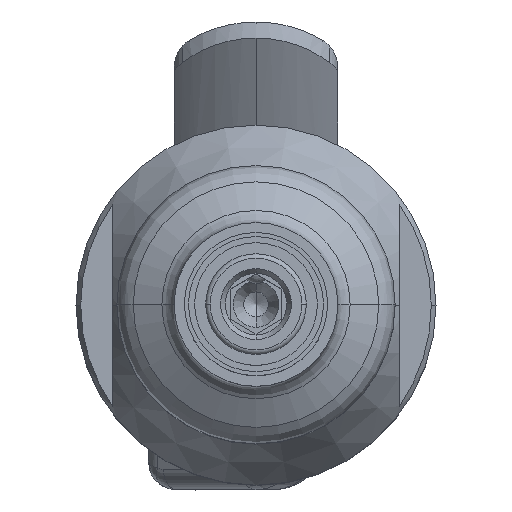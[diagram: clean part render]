
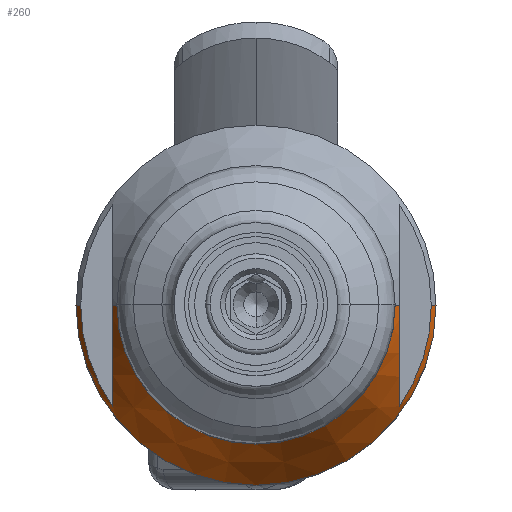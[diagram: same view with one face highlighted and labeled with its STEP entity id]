
A CAD part, top view. The second image highlights one B-rep face of the part: STEP entity #260.
In plain terms, the highlighted conical face has half-angle 30 degrees and reference radius 22 mm.
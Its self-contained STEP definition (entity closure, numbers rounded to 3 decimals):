
#254 = EDGE_LOOP ( 'NONE', ( #255, #258, #259, #295, #293, #281, #289, #291, #298, #288 ) ) ;
#255 = ORIENTED_EDGE ( 'NONE', *, *, #4612, .F. ) ;
#257 = EDGE_CURVE ( 'NONE', #4610, #4609, #5483, .T. ) ;
#258 = ORIENTED_EDGE ( 'NONE', *, *, #257, .F. ) ;
#259 = ORIENTED_EDGE ( 'NONE', *, *, #4355, .T. ) ;
#260 = ADVANCED_FACE ( 'NONE', ( #5479 ), #5478, .T. ) ;
#281 = ORIENTED_EDGE ( 'NONE', *, *, #4370, .T. ) ;
#283 = EDGE_CURVE ( 'NONE', #294, #4371, #5568, .T. ) ;
#284 = EDGE_CURVE ( 'NONE', #299, #4613, #5562, .T. ) ;
#287 = EDGE_CURVE ( 'NONE', #4619, #299, #5539, .T. ) ;
#288 = ORIENTED_EDGE ( 'NONE', *, *, #284, .T. ) ;
#289 = ORIENTED_EDGE ( 'NONE', *, *, #290, .T. ) ;
#290 = EDGE_CURVE ( 'NONE', #4577, #4580, #5601, .T. ) ;
#291 = ORIENTED_EDGE ( 'NONE', *, *, #4621, .F. ) ;
#292 = EDGE_CURVE ( 'NONE', #4366, #294, #5595, .T. ) ;
#293 = ORIENTED_EDGE ( 'NONE', *, *, #283, .T. ) ;
#294 = VERTEX_POINT ( 'NONE', #5596 ) ;
#295 = ORIENTED_EDGE ( 'NONE', *, *, #292, .T. ) ;
#298 = ORIENTED_EDGE ( 'NONE', *, *, #287, .T. ) ;
#299 = VERTEX_POINT ( 'NONE', #5594 ) ;
#4355 = EDGE_CURVE ( 'NONE', #4610, #4366, #26809, .T. ) ;
#4366 = VERTEX_POINT ( 'NONE', #26743 ) ;
#4370 = EDGE_CURVE ( 'NONE', #4371, #4577, #26855, .T. ) ;
#4371 = VERTEX_POINT ( 'NONE', #26848 ) ;
#4577 = VERTEX_POINT ( 'NONE', #27319 ) ;
#4580 = VERTEX_POINT ( 'NONE', #27423 ) ;
#4609 = VERTEX_POINT ( 'NONE', #27434 ) ;
#4610 = VERTEX_POINT ( 'NONE', #27432 ) ;
#4612 = EDGE_CURVE ( 'NONE', #4609, #4613, #27540, .T. ) ;
#4613 = VERTEX_POINT ( 'NONE', #27534 ) ;
#4619 = VERTEX_POINT ( 'NONE', #27496 ) ;
#4621 = EDGE_CURVE ( 'NONE', #4619, #4580, #27494, .T. ) ;
#5473 = DIRECTION ( 'NONE',  ( -1., 0., 0. ) ) ;
#5474 = DIRECTION ( 'NONE',  ( 0., 0., -1. ) ) ;
#5475 = CARTESIAN_POINT ( 'NONE',  ( 0., 0., -48.5 ) ) ;
#5476 = AXIS2_PLACEMENT_3D ( 'NONE', #5475, #5474, #5473 ) ;
#5478 = CONICAL_SURFACE ( 'NONE', #5476, 22., 0.524 ) ;
#5479 = FACE_OUTER_BOUND ( 'NONE', #254, .T. ) ;
#5480 = DIRECTION ( 'NONE',  ( 1., 0., 0. ) ) ;
#5481 = DIRECTION ( 'NONE',  ( 0., 0., 1. ) ) ;
#5482 = AXIS2_PLACEMENT_3D ( 'NONE', #5488, #5481, #5480 ) ;
#5483 = CIRCLE ( 'NONE', #5482, 17. ) ;
#5488 = CARTESIAN_POINT ( 'NONE',  ( 0., 0., -39.84 ) ) ;
#5536 = DIRECTION ( 'NONE',  ( -1., 0., 0. ) ) ;
#5537 = DIRECTION ( 'NONE',  ( 0., 0., -1. ) ) ;
#5538 = AXIS2_PLACEMENT_3D ( 'NONE', #5559, #5537, #5536 ) ;
#5539 = CIRCLE ( 'NONE', #5538, 21.423 ) ;
#5541 = CARTESIAN_POINT ( 'NONE',  ( 17.5, 0., -40.706 ) ) ;
#5542 = CARTESIAN_POINT ( 'NONE',  ( 17.5, -0.599, -40.706 ) ) ;
#5543 = CARTESIAN_POINT ( 'NONE',  ( 17.5, -1.196, -40.759 ) ) ;
#5544 = CARTESIAN_POINT ( 'NONE',  ( 17.5, -2.091, -40.917 ) ) ;
#5545 = CARTESIAN_POINT ( 'NONE',  ( 17.5, -2.39, -40.983 ) ) ;
#5546 = CARTESIAN_POINT ( 'NONE',  ( 17.5, -2.977, -41.137 ) ) ;
#5547 = CARTESIAN_POINT ( 'NONE',  ( 17.5, -3.266, -41.225 ) ) ;
#5548 = CARTESIAN_POINT ( 'NONE',  ( 17.5, -4.121, -41.52 ) ) ;
#5549 = CARTESIAN_POINT ( 'NONE',  ( 17.5, -4.675, -41.756 ) ) ;
#5550 = CARTESIAN_POINT ( 'NONE',  ( 17.5, -5.759, -42.292 ) ) ;
#5551 = CARTESIAN_POINT ( 'NONE',  ( 17.5, -6.29, -42.594 ) ) ;
#5552 = CARTESIAN_POINT ( 'NONE',  ( 17.5, -7.824, -43.556 ) ) ;
#5553 = CARTESIAN_POINT ( 'NONE',  ( 17.5, -8.782, -44.279 ) ) ;
#5554 = CARTESIAN_POINT ( 'NONE',  ( 17.5, -10.621, -45.824 ) ) ;
#5555 = CARTESIAN_POINT ( 'NONE',  ( 17.5, -11.502, -46.647 ) ) ;
#5559 = CARTESIAN_POINT ( 'NONE',  ( 0., 0., -47.5 ) ) ;
#5560 = CARTESIAN_POINT ( 'NONE',  ( 17.5, -12.356, -47.5 ) ) ;
#5562 = B_SPLINE_CURVE_WITH_KNOTS ( 'NONE', 3,
 ( #5560, #5555, #5554, #5553, #5552, #5551, #5550, #5549, #5548, #5547, #5546, #5545, #5544, #5543, #5542, #5541 ),
 .UNSPECIFIED., .F., .F.,
 ( 4, 2, 2, 2, 2, 2, 2, 4 ),
 ( 0.028, 0.032, 0.036, 0.037, 0.039, 0.04, 0.041, 0.043 ),
 .UNSPECIFIED. ) ;
#5564 = DIRECTION ( 'NONE',  ( -1., 0., 0. ) ) ;
#5565 = DIRECTION ( 'NONE',  ( 0., 0., -1. ) ) ;
#5566 = CARTESIAN_POINT ( 'NONE',  ( 0., 0., -47.5 ) ) ;
#5567 = AXIS2_PLACEMENT_3D ( 'NONE', #5566, #5565, #5564 ) ;
#5568 = CIRCLE ( 'NONE', #5567, 21.423 ) ;
#5574 = CARTESIAN_POINT ( 'NONE',  ( -17.5, -12.356, -47.5 ) ) ;
#5575 = CARTESIAN_POINT ( 'NONE',  ( -17.5, -11.502, -46.647 ) ) ;
#5576 = CARTESIAN_POINT ( 'NONE',  ( -17.5, -10.621, -45.824 ) ) ;
#5577 = CARTESIAN_POINT ( 'NONE',  ( -17.5, -8.782, -44.279 ) ) ;
#5578 = CARTESIAN_POINT ( 'NONE',  ( -17.5, -7.824, -43.556 ) ) ;
#5579 = CARTESIAN_POINT ( 'NONE',  ( -17.5, -6.29, -42.594 ) ) ;
#5580 = CARTESIAN_POINT ( 'NONE',  ( -17.5, -5.759, -42.292 ) ) ;
#5581 = CARTESIAN_POINT ( 'NONE',  ( -17.5, -4.675, -41.756 ) ) ;
#5582 = CARTESIAN_POINT ( 'NONE',  ( -17.5, -4.121, -41.52 ) ) ;
#5583 = CARTESIAN_POINT ( 'NONE',  ( -17.5, -3.266, -41.225 ) ) ;
#5584 = CARTESIAN_POINT ( 'NONE',  ( -17.5, -2.977, -41.137 ) ) ;
#5585 = CARTESIAN_POINT ( 'NONE',  ( -17.5, -2.39, -40.983 ) ) ;
#5586 = CARTESIAN_POINT ( 'NONE',  ( -17.5, -2.091, -40.917 ) ) ;
#5587 = CARTESIAN_POINT ( 'NONE',  ( -17.5, -1.196, -40.759 ) ) ;
#5588 = CARTESIAN_POINT ( 'NONE',  ( -17.5, -0.599, -40.706 ) ) ;
#5593 = CARTESIAN_POINT ( 'NONE',  ( -17.5, 0., -40.706 ) ) ;
#5594 = CARTESIAN_POINT ( 'NONE',  ( 17.5, -12.356, -47.5 ) ) ;
#5595 = B_SPLINE_CURVE_WITH_KNOTS ( 'NONE', 3,
 ( #5593, #5588, #5587, #5586, #5585, #5584, #5583, #5582, #5581, #5580, #5579, #5578, #5577, #5576, #5575, #5574 ),
 .UNSPECIFIED., .F., .F.,
 ( 4, 2, 2, 2, 2, 2, 2, 4 ),
 ( 0.04, 0.041, 0.042, 0.043, 0.045, 0.047, 0.05, 0.054 ),
 .UNSPECIFIED. ) ;
#5596 = CARTESIAN_POINT ( 'NONE',  ( -17.5, -12.356, -47.5 ) ) ;
#5597 = DIRECTION ( 'NONE',  ( 1., 0., 0. ) ) ;
#5598 = DIRECTION ( 'NONE',  ( 0., 0., 1. ) ) ;
#5599 = CARTESIAN_POINT ( 'NONE',  ( 0., 0., -48.5 ) ) ;
#5600 = AXIS2_PLACEMENT_3D ( 'NONE', #5599, #5598, #5597 ) ;
#5601 = CIRCLE ( 'NONE', #5600, 22. ) ;
#26743 = CARTESIAN_POINT ( 'NONE',  ( -17.5, 0., -40.706 ) ) ;
#26803 = DIRECTION ( 'NONE',  ( -0.5, 0., -0.866 ) ) ;
#26805 = VECTOR ( 'NONE', #26803, 1000. ) ;
#26807 = CARTESIAN_POINT ( 'NONE',  ( -22., 0., -48.5 ) ) ;
#26809 = LINE ( 'NONE', #26807, #26805 ) ;
#26848 = CARTESIAN_POINT ( 'NONE',  ( -21.423, 0., -47.5 ) ) ;
#26850 = DIRECTION ( 'NONE',  ( -0.5, 0., -0.866 ) ) ;
#26852 = VECTOR ( 'NONE', #26850, 1000. ) ;
#26854 = CARTESIAN_POINT ( 'NONE',  ( -22., 0., -48.5 ) ) ;
#26855 = LINE ( 'NONE', #26854, #26852 ) ;
#27319 = CARTESIAN_POINT ( 'NONE',  ( -22., 0., -48.5 ) ) ;
#27423 = CARTESIAN_POINT ( 'NONE',  ( 22., 0., -48.5 ) ) ;
#27432 = CARTESIAN_POINT ( 'NONE',  ( -17., 0., -39.84 ) ) ;
#27434 = CARTESIAN_POINT ( 'NONE',  ( 17., 0., -39.84 ) ) ;
#27491 = DIRECTION ( 'NONE',  ( 0.5, 0., -0.866 ) ) ;
#27492 = VECTOR ( 'NONE', #27491, 1000. ) ;
#27493 = CARTESIAN_POINT ( 'NONE',  ( 22., 0., -48.5 ) ) ;
#27494 = LINE ( 'NONE', #27493, #27492 ) ;
#27496 = CARTESIAN_POINT ( 'NONE',  ( 21.423, 0., -47.5 ) ) ;
#27534 = CARTESIAN_POINT ( 'NONE',  ( 17.5, 0., -40.706 ) ) ;
#27536 = DIRECTION ( 'NONE',  ( 0.5, 0., -0.866 ) ) ;
#27537 = VECTOR ( 'NONE', #27536, 1000. ) ;
#27539 = CARTESIAN_POINT ( 'NONE',  ( 22., 0., -48.5 ) ) ;
#27540 = LINE ( 'NONE', #27539, #27537 ) ;
